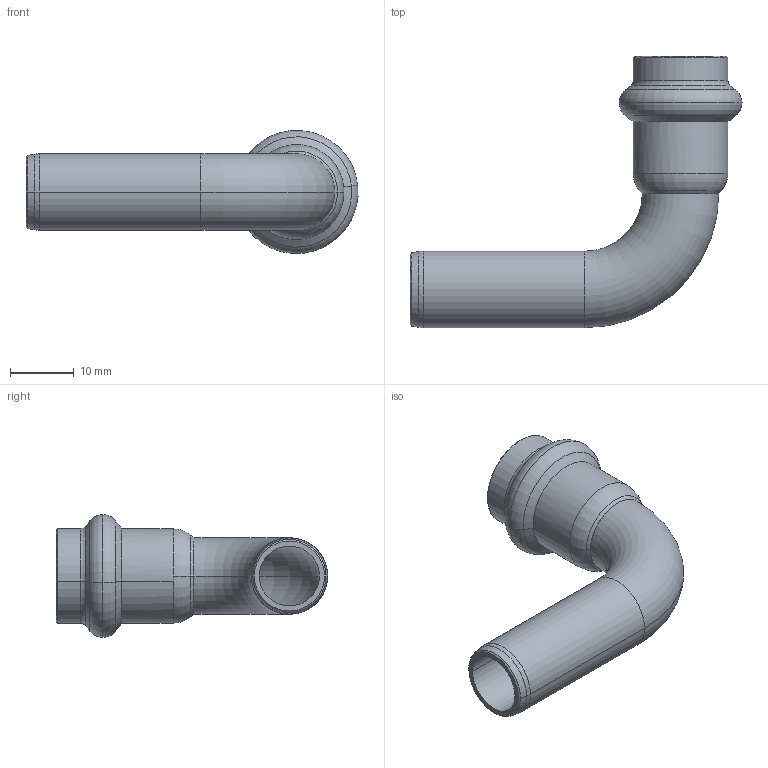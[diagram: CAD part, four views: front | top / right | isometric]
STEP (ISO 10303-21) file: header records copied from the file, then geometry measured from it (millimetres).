
FILE_DESCRIPTION(('CoCreate Modeling STEP Export'),'2;1');
FILE_NAME('8001VW12.stp','2013-01-29T14:14:14',(''),(''),'CoCreate Modeling STEP processor for AP214 (Solid Model)','CoCreate Modeling 17.00A 17-Jun-2010 (C) Parametric Technology GmbH','');
FILE_SCHEMA(('AUTOMOTIVE_DESIGN { 1 0 10303 214 1 1 1 1 }'));
Length unit declared in the file: millimetre
Products named in the file (1): 8001VW12
Bounding box: 52.03 x 42.53 x 19.26 mm (x, y, z)
Volume: 3925.1 mm3; surface area: 5577 mm2
Topology: 1 solids, 1 shells, 58 faces, 124 edges, 70 vertices
Faces by surface type: torus 20, cone 18, cylinder 16, plane 4
Entity records: 1277 total; most frequent: ORIENTED_EDGE 250, DIRECTION 202, CARTESIAN_POINT 188, EDGE_CURVE 124, AXIS2_PLACEMENT_3D 84, VERTEX_POINT 70, EDGE_LOOP 62, FACE_OUTER_BOUND 58
